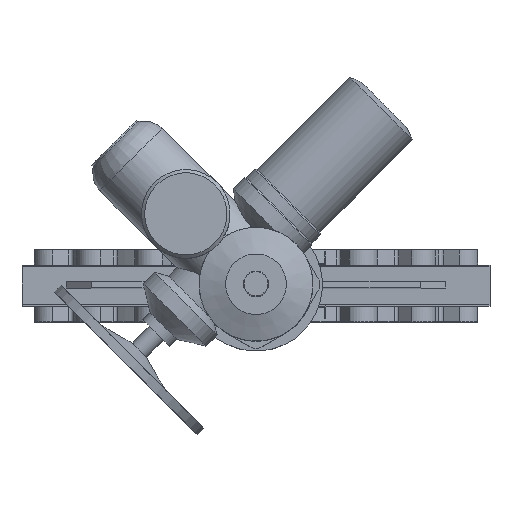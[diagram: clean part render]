
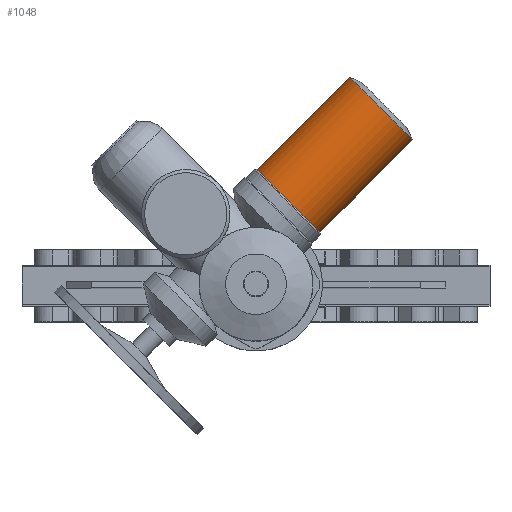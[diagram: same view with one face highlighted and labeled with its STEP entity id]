
A CAD part, top view. The second image highlights one B-rep face of the part: STEP entity #1048.
In plain terms, the highlighted cylindrical face has radius 70 mm (diameter 140 mm), a full revolution.
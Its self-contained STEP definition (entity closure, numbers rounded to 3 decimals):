
#1048=ADVANCED_FACE('',(#2110,#2112),#2114,.T.);
#2110=FACE_OUTER_BOUND('',#2111,.T.);
#2111=EDGE_LOOP('',(#5259));
#2112=FACE_OUTER_BOUND('',#2113,.T.);
#2113=EDGE_LOOP('',(#5260));
#2114=CYLINDRICAL_SURFACE('',#2115,70.);
#2115=AXIS2_PLACEMENT_3D('',#2116,#2117,#2118);
#2116=CARTESIAN_POINT('',(197.792,278.403,1478.));
#2117=DIRECTION('',(-0.707,-0.707,0.));
#2118=DIRECTION('',(0.,0.,1.));
#5259=ORIENTED_EDGE('',*,*,#7695,.T.);
#5260=ORIENTED_EDGE('',*,*,#7693,.F.);
#7693=EDGE_CURVE('',#9604,#9604,#9605,.T.);
#7695=EDGE_CURVE('',#9608,#9608,#9609,.T.);
#9604=VERTEX_POINT('',#12311);
#9605=CIRCLE('',#12312,70.);
#9608=VERTEX_POINT('',#12321);
#9609=CIRCLE('',#12322,70.);
#12311=CARTESIAN_POINT('',(51.482,132.093,1548.));
#12312=AXIS2_PLACEMENT_3D('',#12313,#12314,#12315);
#12313=CARTESIAN_POINT('',(51.482,132.093,1478.));
#12314=DIRECTION('',(-0.707,-0.707,0.));
#12315=DIRECTION('',(0.,0.,1.));
#12321=CARTESIAN_POINT('',(197.792,278.403,1548.));
#12322=AXIS2_PLACEMENT_3D('',#12323,#12324,#12325);
#12323=CARTESIAN_POINT('',(197.792,278.403,1478.));
#12324=DIRECTION('',(-0.707,-0.707,0.));
#12325=DIRECTION('',(0.,0.,1.));
